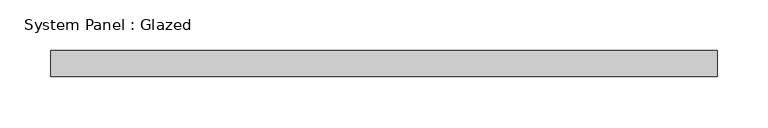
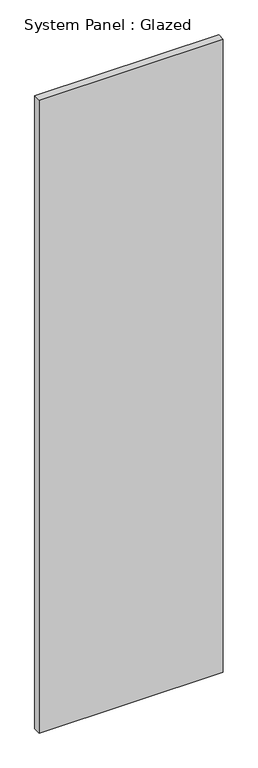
"""IFC4 building model written with IfcOpenShell, lengths in millimetres: plate geometry, System Panel : Glazed."""

import ifcopenshell
import ifcopenshell.guid

model = None  # the IFC model being written
_history = None  # IfcOwnerHistory: only IFC2X3 demands one
_inside = {}  # id of a spatial element -> (the spatial element, [elements in it])
_under = {}  # id of a project, library or spatial element -> (it, [spatial elements below it])
_declared = {}  # id of a project -> (the project, [libraries it declares])
_typed = {}  # id of a type object -> (the type object, [elements of that type])
_made_of = {}  # id of a material, layer set ... -> (it, [elements and type objects made of it])


def new_model(schema):
    """Start an empty IFC model of exactly this schema.

    Asked for "IFC4X3", IfcOpenShell would pick the latest addendum, in which some entities
    have other attributes; the version numbers below select the first issue.
    IFC2X3 requires an IfcOwnerHistory on every rooted entity: one is made here for all.
    """
    global model, _history
    if schema == "IFC4X3":
        model = ifcopenshell.file(schema_version=(4, 3, 0, 0))
    else:
        model = ifcopenshell.file(schema=schema)
    _inside.clear()
    _under.clear()
    _declared.clear()
    _typed.clear()
    _made_of.clear()
    _history = None
    if model.schema == "IFC2X3":
        org = make("IfcOrganization", Name="unknown")
        user = make(
            "IfcPersonAndOrganization",
            ThePerson=make("IfcPerson", FamilyName="unknown"),
            TheOrganization=org,
        )
        app = make(
            "IfcApplication",
            ApplicationDeveloper=org,
            Version="unknown",
            ApplicationFullName="unknown",
            ApplicationIdentifier="unknown",
        )
        _history = make(
            "IfcOwnerHistory",
            OwningUser=user,
            OwningApplication=app,
            ChangeAction="ADDED",
            CreationDate=0,
        )
    return model


def make(cls, **values):
    """One entity of the class cls with the attributes given. An attribute that is None is left unset."""
    return model.create_entity(
        cls, **{name: value for name, value in values.items() if value is not None}
    )


def rooted(cls, **values):
    """An entity with a GlobalId (a new one), such as an element, a storey or a relation."""
    return make(cls, GlobalId=ifcopenshell.guid.new(), OwnerHistory=_history, **values)


def si_unit(unit_type, name, prefix=None):
    """IfcSIUnit, for example si_unit("LENGTHUNIT", "METRE", prefix="MILLI")."""
    return make("IfcSIUnit", UnitType=unit_type, Prefix=prefix, Name=name)


def assignment(units):
    """IfcUnitAssignment: the units of a project."""
    return None if units is None else make("IfcUnitAssignment", Units=units)


def point(xyz):
    """IfcCartesianPoint."""
    return None if xyz is None else make("IfcCartesianPoint", Coordinates=xyz)


def direction(xyz):
    """IfcDirection."""
    return None if xyz is None else make("IfcDirection", DirectionRatios=xyz)


def frame(location, z_axis=None, x_axis=None):
    """IfcAxis2Placement3D, a coordinate frame: its origin and axes. An axis left out is left unset."""
    return make(
        "IfcAxis2Placement3D",
        Location=point(location),
        Axis=direction(z_axis),
        RefDirection=direction(x_axis),
    )


def origin():
    """The frame at (0, 0, 0) with its axes left unset."""
    return frame((0.0, 0.0, 0.0))


def origin_with_axes():
    """The frame at (0, 0, 0) with the z axis (0, 0, 1) and the x axis (1, 0, 0) written out."""
    return frame((0.0, 0.0, 0.0), z_axis=(0.0, 0.0, 1.0), x_axis=(1.0, 0.0, 0.0))


def place(relative_to, where):
    """IfcLocalPlacement: puts the frame where relative to a parent placement (None: the world)."""
    return make(
        "IfcLocalPlacement", PlacementRelTo=relative_to, RelativePlacement=where
    )


def context(
    kind, dimensions, precision=None, world=None, true_north=None, identifier=None
):
    """IfcGeometricRepresentationContext, for example the 3D "Model" context."""
    return make(
        "IfcGeometricRepresentationContext",
        ContextIdentifier=identifier,
        ContextType=kind,
        CoordinateSpaceDimension=dimensions,
        Precision=precision,
        WorldCoordinateSystem=world,
        TrueNorth=true_north,
    )


def project(units=None, contexts=None):
    """IfcProject with its units and contexts."""
    return rooted(
        "IfcProject",
        Name="project",
        RepresentationContexts=contexts,
        UnitsInContext=assignment(units),
    )


def spatial(cls, under=None, at=None, **own):
    """A site, building, storey or space (cls), placed at a placement, below another one or the project."""
    s = rooted(cls, ObjectPlacement=at, **own)
    if under is not None:
        _under.setdefault(under.id(), (under, []))[1].append(s)
    return s


def polyline(points):
    """IfcPolyline through the points."""
    return make("IfcPolyline", Points=[point(p) for p in points])


def outline(outer, holes=None, kind="AREA"):
    """IfcArbitraryClosedProfileDef: a profile drawn as a closed curve; with holes, ...WithVoids."""
    if holes is None:
        return make("IfcArbitraryClosedProfileDef", ProfileType=kind, OuterCurve=outer)
    return make(
        "IfcArbitraryProfileDefWithVoids",
        ProfileType=kind,
        OuterCurve=outer,
        InnerCurves=holes,
    )


def extrude(swept, where, along, depth):
    """IfcExtrudedAreaSolid: the profile swept, set in the frame where, extruded along a direction by depth."""
    return make(
        "IfcExtrudedAreaSolid",
        SweptArea=swept,
        Position=where,
        ExtrudedDirection=direction(along),
        Depth=depth,
    )


def shape(context_of_items, identifier, shape_type, items):
    """IfcShapeRepresentation: the items that make up one representation, for example the "Body"."""
    return make(
        "IfcShapeRepresentation",
        ContextOfItems=context_of_items,
        RepresentationIdentifier=identifier,
        RepresentationType=shape_type,
        Items=items,
    )


def source(mapping_origin, context_of_items, identifier, shape_type, items):
    """IfcRepresentationMap: a shape defined once, which mapped items show again and again."""
    return make(
        "IfcRepresentationMap",
        MappingOrigin=mapping_origin,
        MappedRepresentation=shape(context_of_items, identifier, shape_type, items),
    )


def transform(
    local_origin,
    x_axis=None,
    y_axis=None,
    z_axis=None,
    scale=None,
    scale2=None,
    scale3=None,
    uniform=True,
):
    """IfcCartesianTransformationOperator3D, or its non-uniform kind. x_axis, y_axis, z_axis: its Axis1, 2, 3."""
    if uniform:
        return make(
            "IfcCartesianTransformationOperator3D",
            Axis1=direction(x_axis),
            Axis2=direction(y_axis),
            LocalOrigin=point(local_origin),
            Scale=scale,
            Axis3=direction(z_axis),
        )
    return make(
        "IfcCartesianTransformationOperator3DnonUniform",
        Axis1=direction(x_axis),
        Axis2=direction(y_axis),
        LocalOrigin=point(local_origin),
        Scale=scale,
        Axis3=direction(z_axis),
        Scale2=scale2,
        Scale3=scale3,
    )


def mapped(mapping_source, mapping_target):
    """IfcMappedItem: shows the shape of a source again, moved by a transform."""
    return make(
        "IfcMappedItem", MappingSource=mapping_source, MappingTarget=mapping_target
    )


def made_of(thing, what):
    """Note that an element or type object is made of a material, layer set ...; save() writes the relation."""
    if what is not None:
        _made_of.setdefault(what.id(), (what, []))[1].append(thing)
    return thing


def element(
    cls,
    number,
    at=None,
    inside=None,
    cuts=None,
    type_object=None,
    material=None,
    context=None,
    identifier="Body",
    shape_type=None,
    held_by="IfcProductDefinitionShape",
    body=None,
    shapes=None,
    **own,
):
    """One element of the class cls, such as IfcWall. Its Tag is "e" and its number.

    at: its placement. inside: the storey or other place that contains it. cuts: it is an
    opening in that element (IfcRelVoidsElement). A single representation is given by context,
    identifier, shape_type and body (its items); several are given by shapes. held_by: the class
    of the entity that holds the representations. save() writes the other relations.
    """
    e = rooted(cls, Tag="e%d" % number, ObjectPlacement=at, **own)
    if body is not None:
        shapes = [shape(context, identifier, shape_type, body)]
    if shapes is not None:
        e.Representation = make(held_by, Representations=shapes)
    if inside is not None:
        _inside.setdefault(inside.id(), (inside, []))[1].append(e)
    if cuts is not None:
        rooted(
            "IfcRelVoidsElement", RelatingBuildingElement=cuts, RelatedOpeningElement=e
        )
    if type_object is not None:
        _typed.setdefault(type_object.id(), (type_object, []))[1].append(e)
    return made_of(e, material)


def aggregate(whole, parts):
    """IfcRelAggregates: a whole, such as a stair, and the parts it consists of."""
    return rooted("IfcRelAggregates", RelatingObject=whole, RelatedObjects=parts)


def save(model, path):
    """Write the relations noted so far, then the file.

    IfcRelAggregates (storeys below a building ...), IfcRelContainedInSpatialStructure (elements
    in a storey), IfcRelDefinesByType, IfcRelAssociatesMaterial and IfcRelDeclares: one each for
    every whole, place, type object, material and project.
    """
    for whole, parts in _under.values():
        aggregate(whole, parts)
    for where, things in _inside.values():
        rooted(
            "IfcRelContainedInSpatialStructure",
            RelatedElements=things,
            RelatingStructure=where,
        )
    for kind, things in _typed.values():
        rooted("IfcRelDefinesByType", RelatedObjects=things, RelatingType=kind)
    for what, things in _made_of.values():
        rooted("IfcRelAssociatesMaterial", RelatedObjects=things, RelatingMaterial=what)
    for by, libraries in _declared.values():
        rooted("IfcRelDeclares", RelatingContext=by, RelatedDefinitions=libraries)
    model.write(path)


def system_panel_glazed_cfb73191(model_context):
    return source(origin(), model_context, "Body", "SweptSolid", [
        extrude(outline(polyline([(326.5833332, 19.05), (-326.5833332, 19.05), (-326.5833332, 44.45), (326.5833332, 44.45), (326.5833332, 19.05)])), origin_with_axes(), (0.0, 0.0, 1.0), 2373.0),
    ])


if __name__ == "__main__":
    model = new_model("IFC4")
    model_context = context("Model", 3, world=origin())
    ifc_project = project(units=[si_unit("LENGTHUNIT", "METRE", prefix="MILLI")], contexts=[model_context])
    site = spatial("IfcSite", under=ifc_project)
    building = spatial("IfcBuilding", under=site)
    placement = place(None, origin())
    system_panel_glazed_shape = system_panel_glazed_cfb73191(model_context)
    element("IfcPlate", 1, ObjectType="System Panel : Glazed", at=placement, inside=building, context=model_context, shape_type="MappedRepresentation", body=[
        mapped(system_panel_glazed_shape, transform((0.0, 0.0, 0.0), x_axis=(1.0, 0.0, 0.0), y_axis=(0.0, 1.0, 0.0), z_axis=(0.0, 0.0, 1.0))),
    ])
    save(model, "model.ifc")
